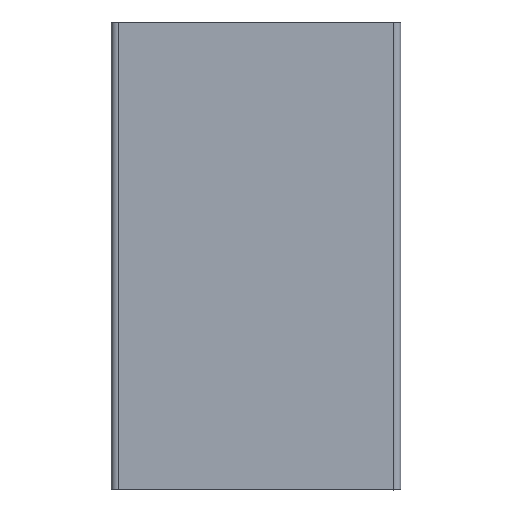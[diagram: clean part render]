
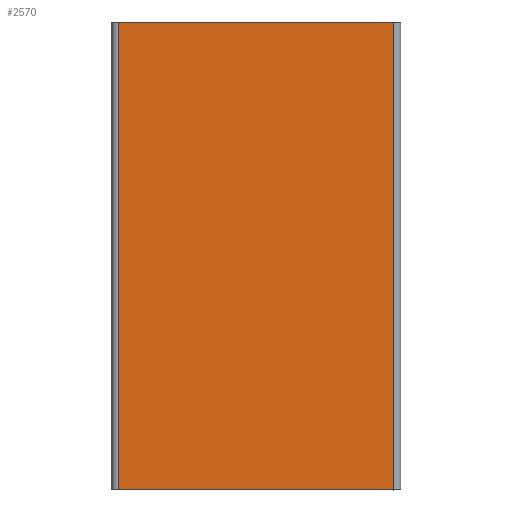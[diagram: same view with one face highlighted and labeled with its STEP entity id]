
A CAD part, top view. The second image highlights one B-rep face of the part: STEP entity #2570.
In plain terms, the highlighted planar face has unit normal (0, 0, 1) as drawn and (0, 1, 0) by its records, which use the part's own axes.
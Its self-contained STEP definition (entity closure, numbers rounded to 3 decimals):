
#472=FACE_OUTER_BOUND('',#651,.T.);
#651=EDGE_LOOP('',(#1959,#1960,#1961,#1962));
#833=LINE('',#4450,#1013);
#834=LINE('',#4456,#1014);
#835=LINE('',#4459,#1015);
#836=LINE('',#4462,#1016);
#1013=VECTOR('',#3541,10.);
#1014=VECTOR('',#3550,10.);
#1015=VECTOR('',#3553,10.);
#1016=VECTOR('',#3558,10.);
#1203=VERTEX_POINT('',#4448);
#1204=VERTEX_POINT('',#4449);
#1205=VERTEX_POINT('',#4454);
#1206=VERTEX_POINT('',#4458);
#1467=EDGE_CURVE('',#1203,#1204,#833,.T.);
#1471=EDGE_CURVE('',#1205,#1203,#834,.T.);
#1472=EDGE_CURVE('',#1205,#1206,#835,.T.);
#1474=EDGE_CURVE('',#1206,#1204,#836,.T.);
#1959=ORIENTED_EDGE('',*,*,#1474,.F.);
#1960=ORIENTED_EDGE('',*,*,#1472,.F.);
#1961=ORIENTED_EDGE('',*,*,#1471,.T.);
#1962=ORIENTED_EDGE('',*,*,#1467,.T.);
#2463=PLANE('',#2973);
#2570=ADVANCED_FACE('',(#472),#2463,.T.);
#2973=AXIS2_PLACEMENT_3D('',#4461,#3556,#3557);
#3541=DIRECTION('',(0.,0.,-1.));
#3550=DIRECTION('',(1.,0.,0.));
#3553=DIRECTION('',(0.,0.,-1.));
#3556=DIRECTION('center_axis',(0.,1.,0.));
#3557=DIRECTION('ref_axis',(-1.,0.,0.));
#3558=DIRECTION('',(1.,0.,0.));
#4448=CARTESIAN_POINT('',(570.42,170.25,485.));
#4449=CARTESIAN_POINT('',(570.42,170.25,-485.));
#4450=CARTESIAN_POINT('',(570.42,170.25,485.));
#4454=CARTESIAN_POINT('',(0.,170.25,485.));
#4456=CARTESIAN_POINT('',(0.,170.25,485.));
#4458=CARTESIAN_POINT('',(0.,170.25,-485.));
#4459=CARTESIAN_POINT('',(0.,170.25,485.));
#4461=CARTESIAN_POINT('Origin',(285.21,170.25,-485.));
#4462=CARTESIAN_POINT('',(0.,170.25,-485.));
